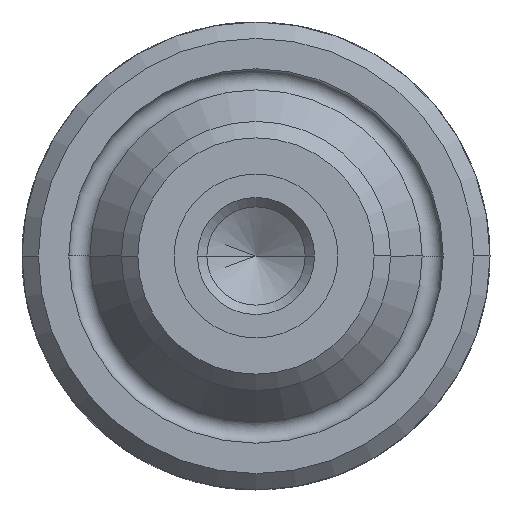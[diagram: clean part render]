
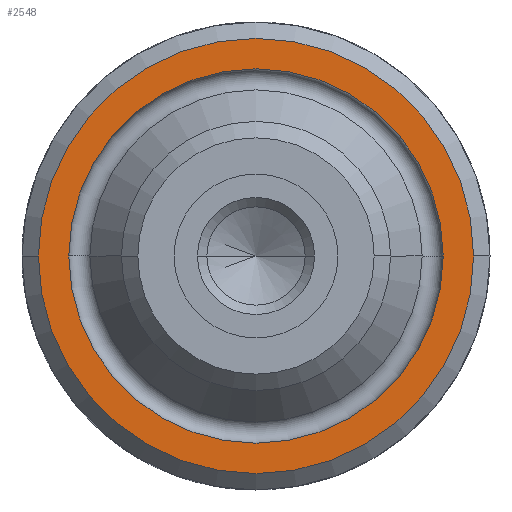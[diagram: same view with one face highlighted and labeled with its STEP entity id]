
A CAD part, left-side view. The second image highlights one B-rep face of the part: STEP entity #2548.
In plain terms, the highlighted planar face has unit normal (-1, 0, 0).
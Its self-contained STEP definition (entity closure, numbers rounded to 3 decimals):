
#16 = DIRECTION ( 'NONE',  ( -1., 0., 0. ) ) ;
#32 = EDGE_LOOP ( 'NONE', ( #554, #259 ) ) ;
#33 = CIRCLE ( 'NONE', #121, 9.3 ) ;
#121 = AXIS2_PLACEMENT_3D ( 'NONE', #694, #1271, #1735 ) ;
#259 = ORIENTED_EDGE ( 'NONE', *, *, #438, .T. ) ;
#285 = ORIENTED_EDGE ( 'NONE', *, *, #1063, .F. ) ;
#434 = CARTESIAN_POINT ( 'NONE',  ( 6., 8., 0. ) ) ;
#438 = EDGE_CURVE ( 'NONE', #975, #2485, #1572, .T. ) ;
#525 = CARTESIAN_POINT ( 'NONE',  ( 6., -9.3, 0. ) ) ;
#554 = ORIENTED_EDGE ( 'NONE', *, *, #1174, .T. ) ;
#579 = AXIS2_PLACEMENT_3D ( 'NONE', #1620, #1438, #1394 ) ;
#694 = CARTESIAN_POINT ( 'NONE',  ( 6., 0., 0. ) ) ;
#842 = EDGE_LOOP ( 'NONE', ( #285, #1797 ) ) ;
#975 = VERTEX_POINT ( 'NONE', #525 ) ;
#981 = CARTESIAN_POINT ( 'NONE',  ( 6., 0., 0. ) ) ;
#1053 = FACE_OUTER_BOUND ( 'NONE', #32, .T. ) ;
#1063 = EDGE_CURVE ( 'NONE', #2523, #1178, #2614, .T. ) ;
#1174 = EDGE_CURVE ( 'NONE', #2485, #975, #33, .T. ) ;
#1178 = VERTEX_POINT ( 'NONE', #1512 ) ;
#1271 = DIRECTION ( 'NONE',  ( -1., 0., 0. ) ) ;
#1394 = DIRECTION ( 'NONE',  ( 0., -1., 0. ) ) ;
#1438 = DIRECTION ( 'NONE',  ( -1., 0., 0. ) ) ;
#1469 = DIRECTION ( 'NONE',  ( 1., 0., 0. ) ) ;
#1512 = CARTESIAN_POINT ( 'NONE',  ( 6., 8., 0. ) ) ;
#1569 = CARTESIAN_POINT ( 'NONE',  ( 6., 0., 0. ) ) ;
#1572 = CIRCLE ( 'NONE', #579, 9.3 ) ;
#1620 = CARTESIAN_POINT ( 'NONE',  ( 6., 0., 0. ) ) ;
#1735 = DIRECTION ( 'NONE',  ( 0., -1., 0. ) ) ;
#1797 = ORIENTED_EDGE ( 'NONE', *, *, #2293, .F. ) ;
#1896 = PLANE ( 'NONE',  #2630 ) ;
#2182 = CIRCLE ( 'NONE', #2811, 8. ) ;
#2216 = AXIS2_PLACEMENT_3D ( 'NONE', #981, #2697, #2642 ) ;
#2278 = CARTESIAN_POINT ( 'NONE',  ( 6., 9.3, 0. ) ) ;
#2293 = EDGE_CURVE ( 'NONE', #1178, #2523, #2182, .T. ) ;
#2333 = CARTESIAN_POINT ( 'NONE',  ( 6., -8., 0. ) ) ;
#2373 = DIRECTION ( 'NONE',  ( 0., 1., 0. ) ) ;
#2485 = VERTEX_POINT ( 'NONE', #2278 ) ;
#2523 = VERTEX_POINT ( 'NONE', #2333 ) ;
#2548 = ADVANCED_FACE ( 'PLANAR_4', ( #2553, #1053 ), #1896, .F. ) ;
#2553 = FACE_BOUND ( 'NONE', #842, .T. ) ;
#2612 = DIRECTION ( 'NONE',  ( 0., -1., 0. ) ) ;
#2614 = CIRCLE ( 'NONE', #2216, 8. ) ;
#2630 = AXIS2_PLACEMENT_3D ( 'NONE', #434, #1469, #2373 ) ;
#2642 = DIRECTION ( 'NONE',  ( 0., -1., 0. ) ) ;
#2697 = DIRECTION ( 'NONE',  ( -1., 0., 0. ) ) ;
#2811 = AXIS2_PLACEMENT_3D ( 'NONE', #1569, #16, #2612 ) ;
